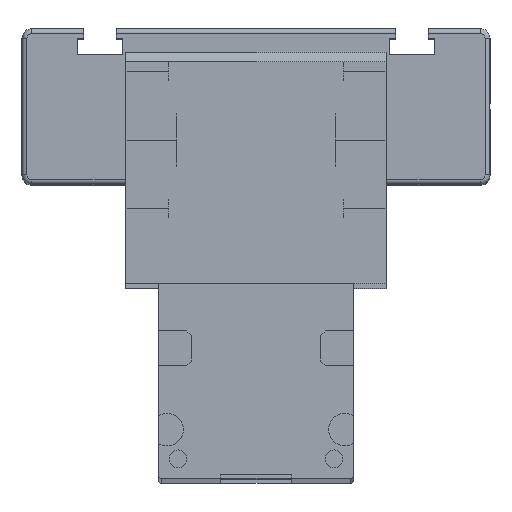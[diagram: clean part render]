
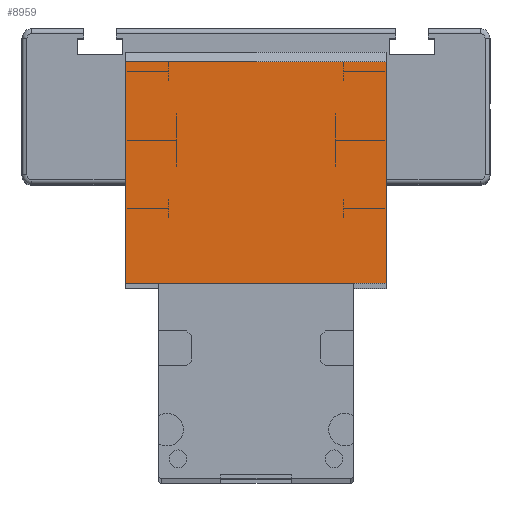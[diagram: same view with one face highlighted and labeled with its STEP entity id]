
A CAD part, top view. The second image highlights one B-rep face of the part: STEP entity #8959.
In plain terms, the highlighted planar face has unit normal (0, 0, 1).
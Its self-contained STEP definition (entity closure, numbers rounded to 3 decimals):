
#149 = EDGE_LOOP ( 'NONE', ( #8676, #1880, #11703, #12303 ) ) ;
#1226 = VERTEX_POINT ( 'NONE', #9952 ) ;
#1880 = ORIENTED_EDGE ( 'NONE', *, *, #2909, .T. ) ;
#1932 = DIRECTION ( 'NONE',  ( 0., 0., -1. ) ) ;
#2390 = VERTEX_POINT ( 'NONE', #10538 ) ;
#2517 = CARTESIAN_POINT ( 'NONE',  ( 80., 79.05, 29.5 ) ) ;
#2896 = LINE ( 'NONE', #8582, #4196 ) ;
#2909 = EDGE_CURVE ( 'NONE', #7051, #1226, #9885, .T. ) ;
#3031 = PLANE ( 'NONE',  #9846 ) ;
#4196 = VECTOR ( 'NONE', #10662, 1000. ) ;
#4462 = VECTOR ( 'NONE', #10787, 1000. ) ;
#4943 = CARTESIAN_POINT ( 'NONE',  ( 0., 11., 29.5 ) ) ;
#5603 = VERTEX_POINT ( 'NONE', #7743 ) ;
#5617 = EDGE_CURVE ( 'NONE', #2390, #7051, #6568, .T. ) ;
#6210 = VECTOR ( 'NONE', #10864, 1000. ) ;
#6568 = LINE ( 'NONE', #7474, #11573 ) ;
#7051 = VERTEX_POINT ( 'NONE', #4943 ) ;
#7474 = CARTESIAN_POINT ( 'NONE',  ( 0., 0., 29.5 ) ) ;
#7500 = FACE_OUTER_BOUND ( 'NONE', #149, .T. ) ;
#7743 = CARTESIAN_POINT ( 'NONE',  ( 80., 79.05, 29.5 ) ) ;
#8582 = CARTESIAN_POINT ( 'NONE',  ( 80., 0., 29.5 ) ) ;
#8676 = ORIENTED_EDGE ( 'NONE', *, *, #5617, .T. ) ;
#8959 = ADVANCED_FACE ( 'NONE', ( #7500 ), #3031, .F. ) ;
#9846 = AXIS2_PLACEMENT_3D ( 'NONE', #10466, #1932, #10326 ) ;
#9885 = LINE ( 'NONE', #11907, #6210 ) ;
#9952 = CARTESIAN_POINT ( 'NONE',  ( 80., 11., 29.5 ) ) ;
#10326 = DIRECTION ( 'NONE',  ( 0., 1., 0. ) ) ;
#10466 = CARTESIAN_POINT ( 'NONE',  ( 80., 0., 29.5 ) ) ;
#10538 = CARTESIAN_POINT ( 'NONE',  ( 0., 79.05, 29.5 ) ) ;
#10662 = DIRECTION ( 'NONE',  ( 0., -1., 0. ) ) ;
#10785 = DIRECTION ( 'NONE',  ( 0., -1., 0. ) ) ;
#10787 = DIRECTION ( 'NONE',  ( -1., 0., 0. ) ) ;
#10864 = DIRECTION ( 'NONE',  ( 1., 0., 0. ) ) ;
#11475 = EDGE_CURVE ( 'NONE', #5603, #1226, #2896, .T. ) ;
#11573 = VECTOR ( 'NONE', #10785, 1000. ) ;
#11703 = ORIENTED_EDGE ( 'NONE', *, *, #11475, .F. ) ;
#11821 = LINE ( 'NONE', #2517, #4462 ) ;
#11907 = CARTESIAN_POINT ( 'NONE',  ( 0., 11., 29.5 ) ) ;
#12303 = ORIENTED_EDGE ( 'NONE', *, *, #12374, .T. ) ;
#12374 = EDGE_CURVE ( 'NONE', #5603, #2390, #11821, .T. ) ;
